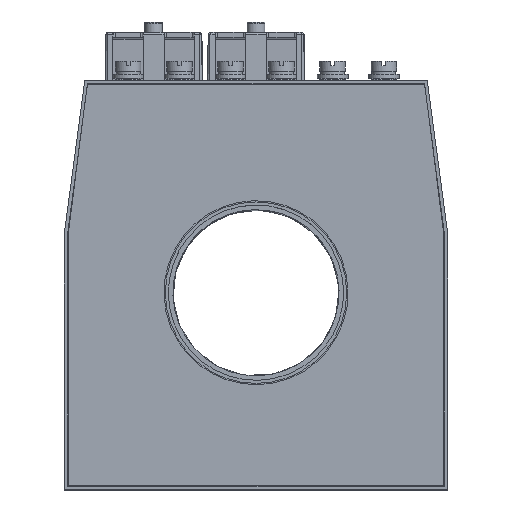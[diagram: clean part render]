
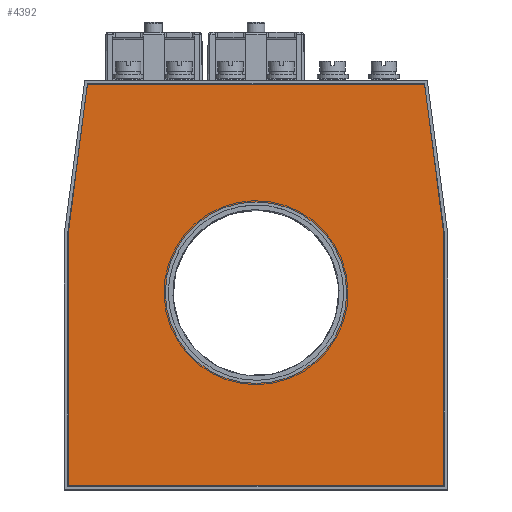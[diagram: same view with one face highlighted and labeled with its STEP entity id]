
A CAD part, top view. The second image highlights one B-rep face of the part: STEP entity #4392.
In plain terms, the highlighted planar face has unit normal (0, 0, 1).
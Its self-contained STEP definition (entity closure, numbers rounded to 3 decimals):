
#4392=ADVANCED_FACE('',(#7817,#7819),#7821,.T.);
#7817=FACE_BOUND('',#7818,.T.);
#7818=EDGE_LOOP('',(#9234,#9235,#9236,#9237,#9238,#9239));
#7819=FACE_BOUND('',#7820,.T.);
#7820=EDGE_LOOP('',(#9240));
#7821=PLANE('',#7822);
#7822=AXIS2_PLACEMENT_3D('',#7823,#7824,#7825);
#7823=CARTESIAN_POINT('',(0.,0.,5.));
#7824=DIRECTION('',(0.,0.,1.));
#7825=DIRECTION('',(1.,0.,0.));
#9234=ORIENTED_EDGE('',*,*,#9949,.T.);
#9235=ORIENTED_EDGE('',*,*,#9950,.T.);
#9236=ORIENTED_EDGE('',*,*,#9951,.T.);
#9237=ORIENTED_EDGE('',*,*,#9952,.T.);
#9238=ORIENTED_EDGE('',*,*,#9953,.T.);
#9239=ORIENTED_EDGE('',*,*,#9954,.T.);
#9240=ORIENTED_EDGE('',*,*,#9955,.T.);
#9949=EDGE_CURVE('',#11125,#11126,#11127,.T.);
#9950=EDGE_CURVE('',#11126,#11128,#11129,.T.);
#9951=EDGE_CURVE('',#11128,#11130,#11131,.T.);
#9952=EDGE_CURVE('',#11130,#11132,#11133,.T.);
#9953=EDGE_CURVE('',#11132,#11134,#11135,.T.);
#9954=EDGE_CURVE('',#11134,#11125,#11136,.T.);
#9955=EDGE_CURVE('',#11137,#11137,#11138,.F.);
#11125=VERTEX_POINT('',#14142);
#11126=VERTEX_POINT('',#14143);
#11127=LINE('',#14144,#14145);
#11128=VERTEX_POINT('',#14147);
#11129=LINE('',#14148,#14149);
#11130=VERTEX_POINT('',#14151);
#11131=LINE('',#14152,#14153);
#11132=VERTEX_POINT('',#14155);
#11133=LINE('',#14156,#14157);
#11134=VERTEX_POINT('',#14159);
#11135=LINE('',#14160,#14161);
#11136=LINE('',#14163,#14164);
#11137=VERTEX_POINT('',#14166);
#11138=CIRCLE('',#14167,35.5);
#14142=CARTESIAN_POINT('',(-73.5,19.815,5.));
#14143=CARTESIAN_POINT('',(-73.5,-78.5,5.));
#14144=CARTESIAN_POINT('',(-73.5,19.815,5.));
#14145=VECTOR('',#14146,1.);
#14146=DIRECTION('',(0.,-1.,0.));
#14147=CARTESIAN_POINT('',(73.5,-78.5,5.));
#14148=CARTESIAN_POINT('',(-73.5,-78.5,5.));
#14149=VECTOR('',#14150,1.);
#14150=DIRECTION('',(1.,0.,0.));
#14151=CARTESIAN_POINT('',(73.5,19.815,5.));
#14152=CARTESIAN_POINT('',(73.5,-78.5,5.));
#14153=VECTOR('',#14154,1.);
#14154=DIRECTION('',(0.,1.,0.));
#14155=CARTESIAN_POINT('',(66.,78.5,5.));
#14156=CARTESIAN_POINT('',(73.5,19.815,5.));
#14157=VECTOR('',#14158,1.);
#14158=DIRECTION('',(-0.127,0.992,0.));
#14159=CARTESIAN_POINT('',(-66.,78.5,5.));
#14160=CARTESIAN_POINT('',(66.,78.5,5.));
#14161=VECTOR('',#14162,1.);
#14162=DIRECTION('',(-1.,0.,0.));
#14163=CARTESIAN_POINT('',(-66.,78.5,5.));
#14164=VECTOR('',#14165,1.);
#14165=DIRECTION('',(-0.127,-0.992,0.));
#14166=CARTESIAN_POINT('',(35.5,-3.,5.));
#14167=AXIS2_PLACEMENT_3D('',#14168,#14169,#14170);
#14168=CARTESIAN_POINT('',(0.,-3.,5.));
#14169=DIRECTION('',(0.,0.,1.));
#14170=DIRECTION('',(1.,0.,0.));
